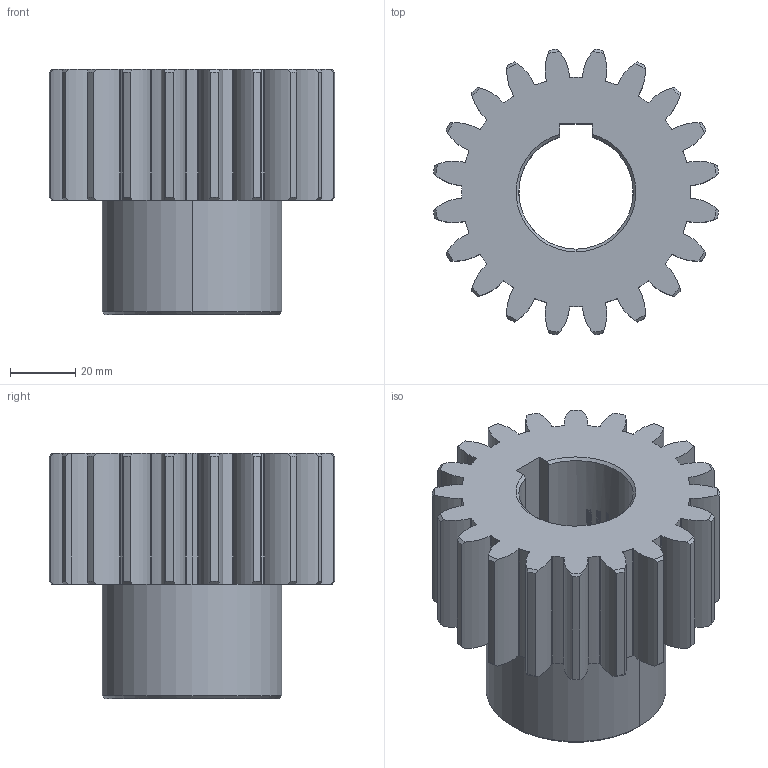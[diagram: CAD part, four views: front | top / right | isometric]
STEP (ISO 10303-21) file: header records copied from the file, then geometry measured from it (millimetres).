
FILE_DESCRIPTION (( 'STEP AP214' ), '1' );
FILE_NAME ('4M-20-35.step', '2022-04-02T05:45:55', ( 'IT Division' ), ( 'IT' ), 'SwSTEP 2.0', 'SolidWorks 2016', '' );
FILE_SCHEMA (( 'AUTOMOTIVE_DESIGN' ));
Length unit declared in the file: millimetre
Products named in the file (1): 4M-20-35
Bounding box: 87.27 x 87.27 x 75 mm (x, y, z)
Volume: 205108.7 mm3; surface area: 42811.6 mm2
Topology: 1 solids, 1 shells, 357 faces, 2362 edges, 2174 vertices
Faces by surface type: cylinder 306, cone 45, plane 6
Entity records: 30121 total; most frequent: CARTESIAN_POINT 13609, ORIENTED_EDGE 4724, EDGE_CURVE 2362, DIRECTION 2250, VERTEX_POINT 2174, AXIS2_PLACEMENT_3D 884, B_SPLINE_CURVE_WITH_KNOTS 824, CIRCLE 526
